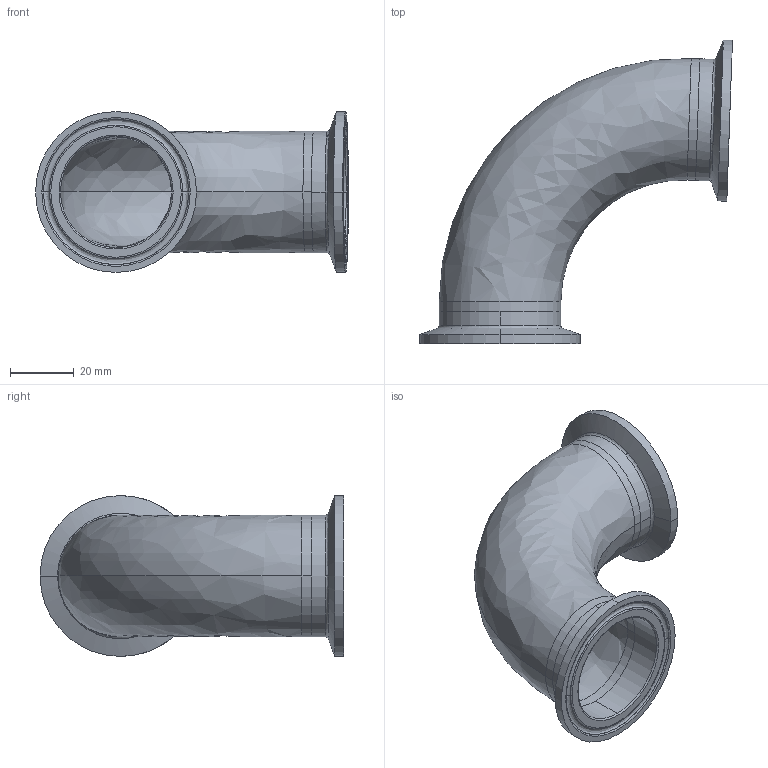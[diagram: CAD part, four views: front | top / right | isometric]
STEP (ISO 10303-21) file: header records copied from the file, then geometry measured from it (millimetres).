
FILE_DESCRIPTION (( 'STEP AP214' ), '1' );
FILE_NAME ('TEG2C926L1.5-...STEP', '2016-05-22T11:35:49', ( 'eran' ), ( '' ), 'SwSTEP 2.0', 'SolidWorks 2016', '' );
FILE_SCHEMA (( 'AUTOMOTIVE_DESIGN' ));
Length unit declared in the file: millimetre
Products named in the file (1): TEG2C926L1.5-..
Bounding box: 97.96 x 95.13 x 50.39 mm (x, y, z)
Volume: 28568.3 mm3; surface area: 31366.1 mm2
Topology: 3 solids, 3 shells, 64 faces, 156 edges, 100 vertices
Faces by surface type: bspline 24, cylinder 20, cone 12, plane 8
Entity records: 3286 total; most frequent: CARTESIAN_POINT 1729, DIRECTION 338, ORIENTED_EDGE 312, EDGE_CURVE 156, AXIS2_PLACEMENT_3D 153, CIRCLE 112, VERTEX_POINT 100, EDGE_LOOP 72
